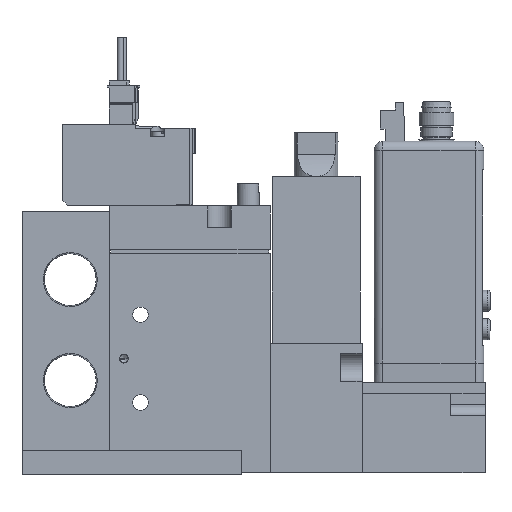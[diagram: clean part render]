
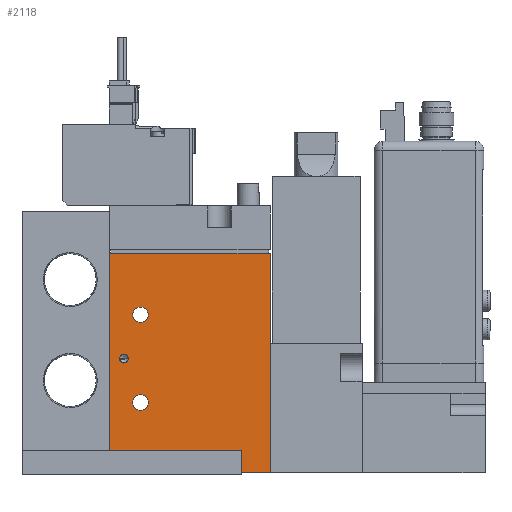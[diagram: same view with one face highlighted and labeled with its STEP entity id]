
A CAD part, left-side view. The second image highlights one B-rep face of the part: STEP entity #2118.
In plain terms, the highlighted planar face has unit normal (-1, 0, 0) as drawn and (1, 0, 0) by its records, which use the part's own axes.
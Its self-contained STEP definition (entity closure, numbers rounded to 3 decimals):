
#2118=ADVANCED_FACE('',(#4276,#4277,#4278,#4279),#4280,.F.);
#4276=FACE_BOUND('',#7923,.T.);
#4277=FACE_BOUND('',#7924,.T.);
#4278=FACE_BOUND('',#7925,.T.);
#4279=FACE_OUTER_BOUND('',#7926,.T.);
#4280=PLANE('',#7927);
#7923=EDGE_LOOP('',(#14055));
#7924=EDGE_LOOP('',(#14056));
#7925=EDGE_LOOP('',(#14057));
#7926=EDGE_LOOP('',(#14058,#14059,#14060,#14061));
#7927=AXIS2_PLACEMENT_3D('',#14062,#14063,#14064);
#14055=ORIENTED_EDGE('',*,*,#24143,.F.);
#14056=ORIENTED_EDGE('',*,*,#24144,.T.);
#14057=ORIENTED_EDGE('',*,*,#24145,.T.);
#14058=ORIENTED_EDGE('',*,*,#24146,.T.);
#14059=ORIENTED_EDGE('',*,*,#24147,.F.);
#14060=ORIENTED_EDGE('',*,*,#24148,.F.);
#14061=ORIENTED_EDGE('',*,*,#24149,.T.);
#14062=CARTESIAN_POINT('',(8.5,-19.444,50.0));
#14063=DIRECTION('',(-1.0,0.0,0.0));
#14064=DIRECTION('',(0.0,0.0,1.0));
#24143=EDGE_CURVE('',#28884,#28884,#28885,.T.);
#24144=EDGE_CURVE('',#28886,#28886,#28887,.T.);
#24145=EDGE_CURVE('',#28888,#28888,#28889,.T.);
#24146=EDGE_CURVE('',#28890,#28891,#28892,.T.);
#24147=EDGE_CURVE('',#28893,#28891,#28894,.T.);
#24148=EDGE_CURVE('',#28895,#28893,#28896,.T.);
#24149=EDGE_CURVE('',#28895,#28890,#28897,.T.);
#28884=VERTEX_POINT('',#36406);
#28885=CIRCLE('',#36407,1.0);
#28886=VERTEX_POINT('',#36408);
#28887=CIRCLE('',#36409,1.75);
#28888=VERTEX_POINT('',#36410);
#28889=CIRCLE('',#36411,1.75);
#28890=VERTEX_POINT('',#36412);
#28891=VERTEX_POINT('',#36413);
#28892=LINE('',#36414,#36415);
#28893=VERTEX_POINT('',#36416);
#28894=LINE('',#36417,#36418);
#28895=VERTEX_POINT('',#36419);
#28896=LINE('',#36420,#36421);
#28897=LINE('',#36422,#36423);
#36406=CARTESIAN_POINT('',(8.5,-17.244,26.0));
#36407=AXIS2_PLACEMENT_3D('',#44959,#44960,#44961);
#36408=CARTESIAN_POINT('',(8.5,-10.694,36.0));
#36409=AXIS2_PLACEMENT_3D('',#44962,#44963,#44964);
#36410=CARTESIAN_POINT('',(8.5,-10.694,16.0));
#36411=AXIS2_PLACEMENT_3D('',#44965,#44966,#44967);
#36412=CARTESIAN_POINT('',(8.5,-19.444,0.0));
#36413=CARTESIAN_POINT('',(8.5,17.056,0.0));
#36414=CARTESIAN_POINT('',(8.5,-19.444,0.0));
#36415=VECTOR('',#44968,1.0);
#36416=CARTESIAN_POINT('',(8.5,17.056,50.0));
#36417=CARTESIAN_POINT('',(8.5,17.056,50.0));
#36418=VECTOR('',#44969,1.0);
#36419=CARTESIAN_POINT('',(8.5,-19.444,50.0));
#36420=CARTESIAN_POINT('',(8.5,-19.444,50.0));
#36421=VECTOR('',#44970,1.0);
#36422=CARTESIAN_POINT('',(8.5,-19.444,50.0));
#36423=VECTOR('',#44971,1.0);
#44959=CARTESIAN_POINT('',(8.5,-16.244,26.0));
#44960=DIRECTION('',(1.0,0.,0.0));
#44961=DIRECTION('',(0.,-1.0,0.0));
#44962=CARTESIAN_POINT('',(8.5,-12.444,36.0));
#44963=DIRECTION('',(-1.0,0.0,0.0));
#44964=DIRECTION('',(0.0,1.0,0.0));
#44965=CARTESIAN_POINT('',(8.5,-12.444,16.0));
#44966=DIRECTION('',(-1.0,0.0,0.0));
#44967=DIRECTION('',(0.0,1.0,0.0));
#44968=DIRECTION('',(0.0,1.0,0.0));
#44969=DIRECTION('',(0.0,0.0,-1.0));
#44970=DIRECTION('',(0.0,1.0,0.0));
#44971=DIRECTION('',(0.0,0.0,-1.0));
